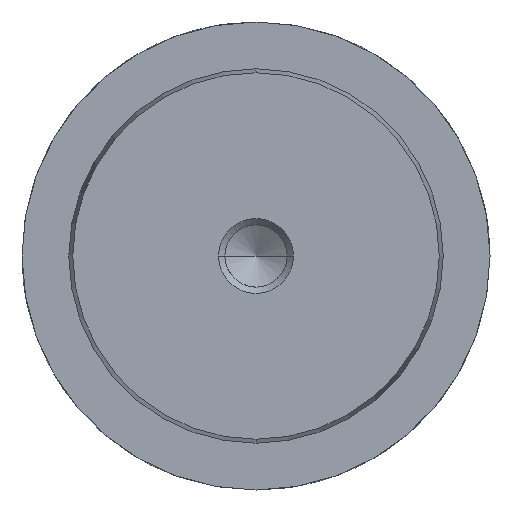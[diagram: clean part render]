
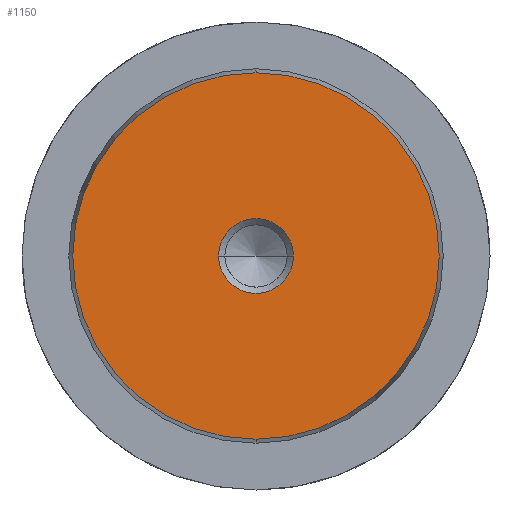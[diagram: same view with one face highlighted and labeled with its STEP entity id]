
A CAD part, left-side view. The second image highlights one B-rep face of the part: STEP entity #1150.
In plain terms, the highlighted planar face has unit normal (-1, 0, 0).
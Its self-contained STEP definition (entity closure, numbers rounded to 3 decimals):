
#1064=CARTESIAN_POINT('Vertex',(0.,0.,-19.578)) ;
#1067=CARTESIAN_POINT('Axis2P3D Location',(0.,0.,0.)) ;
#1071=CARTESIAN_POINT('Vertex',(0.,19.578,0.)) ;
#1074=CARTESIAN_POINT('Axis2P3D Location',(0.,0.,0.)) ;
#1078=CARTESIAN_POINT('Vertex',(0.,0.,19.578)) ;
#1100=CARTESIAN_POINT('Axis2P3D Location',(0.,0.,0.)) ;
#1104=CARTESIAN_POINT('Vertex',(0.,-19.578,0.)) ;
#1107=CARTESIAN_POINT('Axis2P3D Location',(0.,0.,0.)) ;
#1121=CARTESIAN_POINT('Axis2P3D Location',(0.,0.,0.)) ;
#1132=CARTESIAN_POINT('Axis2P3D Location',(0.,0.,0.)) ;
#1136=CARTESIAN_POINT('Vertex',(0.,4.,0.)) ;
#1138=CARTESIAN_POINT('Vertex',(0.,-4.,0.)) ;
#1141=CARTESIAN_POINT('Axis2P3D Location',(0.,0.,0.)) ;
#1068=DIRECTION('Axis2P3D Direction',(1.,0.,-0.)) ;
#1075=DIRECTION('Axis2P3D Direction',(1.,0.,-0.)) ;
#1101=DIRECTION('Axis2P3D Direction',(1.,0.,-0.)) ;
#1108=DIRECTION('Axis2P3D Direction',(1.,0.,-0.)) ;
#1122=DIRECTION('Axis2P3D Direction',(1.,0.,-0.)) ;
#1123=DIRECTION('Axis2P3D XDirection',(-0.,0.,-1.)) ;
#1133=DIRECTION('Axis2P3D Direction',(1.,0.,-0.)) ;
#1142=DIRECTION('Axis2P3D Direction',(1.,0.,-0.)) ;
#1069=AXIS2_PLACEMENT_3D('Circle Axis2P3D',#1067,#1068,$) ;
#1076=AXIS2_PLACEMENT_3D('Circle Axis2P3D',#1074,#1075,$) ;
#1102=AXIS2_PLACEMENT_3D('Circle Axis2P3D',#1100,#1101,$) ;
#1109=AXIS2_PLACEMENT_3D('Circle Axis2P3D',#1107,#1108,$) ;
#1124=AXIS2_PLACEMENT_3D('Plane Axis2P3D',#1121,#1122,#1123) ;
#1134=AXIS2_PLACEMENT_3D('Circle Axis2P3D',#1132,#1133,$) ;
#1143=AXIS2_PLACEMENT_3D('Circle Axis2P3D',#1141,#1142,$) ;
#1127=ORIENTED_EDGE('',*,*,#1073,.F.) ;
#1128=ORIENTED_EDGE('',*,*,#1111,.F.) ;
#1129=ORIENTED_EDGE('',*,*,#1106,.F.) ;
#1130=ORIENTED_EDGE('',*,*,#1080,.F.) ;
#1147=ORIENTED_EDGE('',*,*,#1140,.T.) ;
#1148=ORIENTED_EDGE('',*,*,#1145,.T.) ;
#1149=FACE_BOUND('',#1146,.T.) ;
#1150=ADVANCED_FACE('718-40x125',(#1131,#1149),#1125,.F.) ;
#1070=CIRCLE('generated circle',#1069,19.578) ;
#1077=CIRCLE('generated circle',#1076,19.578) ;
#1103=CIRCLE('generated circle',#1102,19.578) ;
#1110=CIRCLE('generated circle',#1109,19.578) ;
#1135=CIRCLE('generated circle',#1134,4.) ;
#1144=CIRCLE('generated circle',#1143,4.) ;
#1073=EDGE_CURVE('',#1065,#1072,#1070,.T.) ;
#1080=EDGE_CURVE('',#1072,#1079,#1077,.T.) ;
#1106=EDGE_CURVE('',#1079,#1105,#1103,.T.) ;
#1111=EDGE_CURVE('',#1105,#1065,#1110,.T.) ;
#1140=EDGE_CURVE('',#1137,#1139,#1135,.T.) ;
#1145=EDGE_CURVE('',#1139,#1137,#1144,.T.) ;
#1126=EDGE_LOOP('',(#1127,#1128,#1129,#1130)) ;
#1146=EDGE_LOOP('',(#1147,#1148)) ;
#1131=FACE_OUTER_BOUND('',#1126,.T.) ;
#1125=PLANE('Plane',#1124) ;
#1065=VERTEX_POINT('',#1064) ;
#1072=VERTEX_POINT('',#1071) ;
#1079=VERTEX_POINT('',#1078) ;
#1105=VERTEX_POINT('',#1104) ;
#1137=VERTEX_POINT('',#1136) ;
#1139=VERTEX_POINT('',#1138) ;
